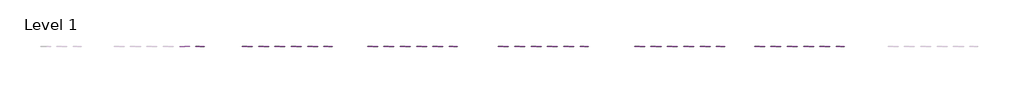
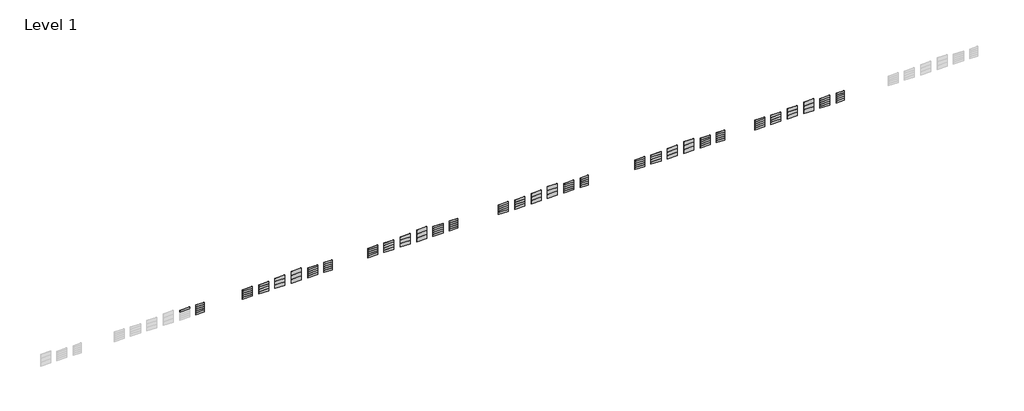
# One storey, part 3 of 7: 131 plates.
"""IFC4 building model written with IfcOpenShell, lengths in millimetres."""

from ifc_helpers import new_model, si_unit, origin, place, context, project, spatial, transform, mapped, element, save
from components import plate_eaecce36, s001_satin_white_20mm_25284a5f, plate_eb5be41b, s001_satin_white_12mm_60b0a342, s001_satin_white_12mm_af0daad2, s001_satin_white_12mm_b3103b5f, plate_547342df, s001_satin_white_12mm_c1b55f6d, s001_satin_white_12mm_d668b75a, s001_satin_white_12mm_d8c75ca1, s001_satin_white_12mm_670b1509, s001_satin_white_20mm_e5290f1d

model = new_model("IFC4")

# Units and contexts
model_context = context("Model", 3, world=origin())
ifc_project = project(units=[si_unit("LENGTHUNIT", "METRE", prefix="MILLI")], contexts=[model_context])

# Site, building, storey
site = spatial("IfcSite", under=ifc_project)
building = spatial("IfcBuilding", under=site)
storey = spatial("IfcBuildingStorey", under=building, Name="Level 1", Elevation=0.0)

# Plates
placement = place(None, origin())
plate_shape = plate_eaecce36(model_context)
element("IfcPlate", 1, ObjectType="Curtain-Panels_Outdoor-Material_HI-MACS_Solids : S006_Artic-White_20mm", at=placement, inside=storey, context=model_context, shape_type="MappedRepresentation", body=[
    mapped(plate_shape, transform((134315.8858072, 1061.3187116, 3040.0), x_axis=(1.0, 0.0, 0.0), y_axis=(0.0, 1.0, 0.0), z_axis=(0.0, 0.0, 1.0))),
])
s001_satin_white_20mm_shape = s001_satin_white_20mm_25284a5f(model_context)
element("IfcPlate", 2, ObjectType="Curtain-Panels_Outdoor-Material_HI-MACS_Solids : S006_Artic-White_20mm", at=placement, inside=storey, context=model_context, shape_type="MappedRepresentation", body=[
    mapped(s001_satin_white_20mm_shape, transform((139975.8858072, 1061.3187116, 0.0), x_axis=(1.0, 0.0, 0.0), y_axis=(0.0, 1.0, 0.0), z_axis=(0.0, 0.0, 1.0))),
])
element("IfcPlate", 3, ObjectType="Curtain-Panels_Outdoor-Material_HI-MACS_Solids : S006_Artic-White_20mm", at=placement, inside=storey, context=model_context, shape_type="MappedRepresentation", body=[
    mapped(s001_satin_white_20mm_shape, transform((139975.8858072, 1061.3187116, 760.0), x_axis=(1.0, 0.0, 0.0), y_axis=(0.0, 1.0, 0.0), z_axis=(0.0, 0.0, 1.0))),
])
element("IfcPlate", 4, ObjectType="Curtain-Panels_Outdoor-Material_HI-MACS_Solids : S006_Artic-White_20mm", at=placement, inside=storey, context=model_context, shape_type="MappedRepresentation", body=[
    mapped(s001_satin_white_20mm_shape, transform((139975.8858072, 1061.3187116, 1520.0), x_axis=(1.0, 0.0, 0.0), y_axis=(0.0, 1.0, 0.0), z_axis=(0.0, 0.0, 1.0))),
])
element("IfcPlate", 5, ObjectType="Curtain-Panels_Outdoor-Material_HI-MACS_Solids : S006_Artic-White_20mm", at=placement, inside=storey, context=model_context, shape_type="MappedRepresentation", body=[
    mapped(s001_satin_white_20mm_shape, transform((139975.8858072, 1061.3187116, 2280.0), x_axis=(1.0, 0.0, 0.0), y_axis=(0.0, 1.0, 0.0), z_axis=(0.0, 0.0, 1.0))),
])
plate_2_shape = plate_eb5be41b(model_context)
element("IfcPlate", 6, ObjectType="Curtain-Panels_Outdoor-Material_HI-MACS_Solids : S006_Artic-White_20mm", at=placement, inside=storey, context=model_context, shape_type="MappedRepresentation", body=[
    mapped(plate_2_shape, transform((139975.8858072, 1061.3187116, 3040.0), x_axis=(1.0, 0.0, 0.0), y_axis=(0.0, 1.0, 0.0), z_axis=(0.0, 0.0, 1.0))),
])
s001_satin_white_12mm_shape = s001_satin_white_12mm_60b0a342(model_context)
element("IfcPlate", 7, ObjectType="Curtain-Panels_Outdoor-Material_HI-MACS_Solids : S025_Fiery-Red_12mm", at=placement, inside=storey, context=model_context, shape_type="MappedRepresentation", body=[
    mapped(s001_satin_white_12mm_shape, transform((251315.8858072, 1061.3187116, 0.0), x_axis=(1.0, 0.0, 0.0), y_axis=(0.0, 1.0, 0.0), z_axis=(0.0, 0.0, 1.0))),
])
element("IfcPlate", 8, ObjectType="Curtain-Panels_Outdoor-Material_HI-MACS_Solids : S025_Fiery-Red_12mm", at=placement, inside=storey, context=model_context, shape_type="MappedRepresentation", body=[
    mapped(s001_satin_white_12mm_shape, transform((251315.8858072, 1061.3187116, 760.0), x_axis=(1.0, 0.0, 0.0), y_axis=(0.0, 1.0, 0.0), z_axis=(0.0, 0.0, 1.0))),
])
element("IfcPlate", 9, ObjectType="Curtain-Panels_Outdoor-Material_HI-MACS_Solids : S025_Fiery-Red_12mm", at=placement, inside=storey, context=model_context, shape_type="MappedRepresentation", body=[
    mapped(s001_satin_white_12mm_shape, transform((251315.8858072, 1061.3187116, 1520.0), x_axis=(1.0, 0.0, 0.0), y_axis=(0.0, 1.0, 0.0), z_axis=(0.0, 0.0, 1.0))),
])
element("IfcPlate", 10, ObjectType="Curtain-Panels_Outdoor-Material_HI-MACS_Solids : S025_Fiery-Red_12mm", at=placement, inside=storey, context=model_context, shape_type="MappedRepresentation", body=[
    mapped(s001_satin_white_12mm_shape, transform((251315.8858072, 1061.3187116, 2280.0), x_axis=(1.0, 0.0, 0.0), y_axis=(0.0, 1.0, 0.0), z_axis=(0.0, 0.0, 1.0))),
])
s001_satin_white_12mm_2_shape = s001_satin_white_12mm_af0daad2(model_context)
element("IfcPlate", 11, ObjectType="Curtain-Panels_Outdoor-Material_HI-MACS_Solids : S025_Fiery-Red_12mm", at=placement, inside=storey, context=model_context, shape_type="MappedRepresentation", body=[
    mapped(s001_satin_white_12mm_2_shape, transform((251315.8858072, 1061.3187116, 3040.0), x_axis=(1.0, 0.0, 0.0), y_axis=(0.0, 1.0, 0.0), z_axis=(0.0, 0.0, 1.0))),
])
s001_satin_white_12mm_3_shape = s001_satin_white_12mm_b3103b5f(model_context)
element("IfcPlate", 12, ObjectType="Curtain-Panels_Outdoor-Material_HI-MACS_Solids : S025_Fiery-Red_12mm", at=placement, inside=storey, context=model_context, shape_type="MappedRepresentation", body=[
    mapped(s001_satin_white_12mm_3_shape, transform((257315.8858072, 1061.3187116, 0.0), x_axis=(1.0, 0.0, 0.0), y_axis=(0.0, 1.0, 0.0), z_axis=(0.0, 0.0, 1.0))),
])
element("IfcPlate", 13, ObjectType="Curtain-Panels_Outdoor-Material_HI-MACS_Solids : S025_Fiery-Red_12mm", at=placement, inside=storey, context=model_context, shape_type="MappedRepresentation", body=[
    mapped(s001_satin_white_12mm_3_shape, transform((257315.8858072, 1061.3187116, 910.0), x_axis=(1.0, 0.0, 0.0), y_axis=(0.0, 1.0, 0.0), z_axis=(0.0, 0.0, 1.0))),
])
element("IfcPlate", 14, ObjectType="Curtain-Panels_Outdoor-Material_HI-MACS_Solids : S025_Fiery-Red_12mm", at=placement, inside=storey, context=model_context, shape_type="MappedRepresentation", body=[
    mapped(s001_satin_white_12mm_3_shape, transform((257315.8858072, 1061.3187116, 1820.0), x_axis=(1.0, 0.0, 0.0), y_axis=(0.0, 1.0, 0.0), z_axis=(0.0, 0.0, 1.0))),
])
plate_3_shape = plate_547342df(model_context)
element("IfcPlate", 15, ObjectType="Curtain-Panels_Outdoor-Material_HI-MACS_Solids : S025_Fiery-Red_12mm", at=placement, inside=storey, context=model_context, shape_type="MappedRepresentation", body=[
    mapped(plate_3_shape, transform((257315.8858072, 1061.3187116, 2730.0), x_axis=(1.0, 0.0, 0.0), y_axis=(0.0, 1.0, 0.0), z_axis=(0.0, 0.0, 1.0))),
])
s001_satin_white_12mm_4_shape = s001_satin_white_12mm_c1b55f6d(model_context)
element("IfcPlate", 16, ObjectType="Curtain-Panels_Outdoor-Material_HI-MACS_Solids : S025_Fiery-Red_12mm", at=placement, inside=storey, context=model_context, shape_type="MappedRepresentation", body=[
    mapped(s001_satin_white_12mm_4_shape, transform((263315.8858072, 1061.3187116, 0.0), x_axis=(1.0, 0.0, 0.0), y_axis=(0.0, 1.0, 0.0), z_axis=(0.0, 0.0, 1.0))),
])
element("IfcPlate", 17, ObjectType="Curtain-Panels_Outdoor-Material_HI-MACS_Solids : S025_Fiery-Red_12mm", at=placement, inside=storey, context=model_context, shape_type="MappedRepresentation", body=[
    mapped(s001_satin_white_12mm_4_shape, transform((263315.8858072, 1061.3187116, 1350.0), x_axis=(1.0, 0.0, 0.0), y_axis=(0.0, 1.0, 0.0), z_axis=(0.0, 0.0, 1.0))),
])
s001_satin_white_12mm_5_shape = s001_satin_white_12mm_d668b75a(model_context)
element("IfcPlate", 18, ObjectType="Curtain-Panels_Outdoor-Material_HI-MACS_Solids : S025_Fiery-Red_12mm", at=placement, inside=storey, context=model_context, shape_type="MappedRepresentation", body=[
    mapped(s001_satin_white_12mm_5_shape, transform((263315.8858072, 1061.3187116, 2700.0), x_axis=(1.0, 0.0, 0.0), y_axis=(0.0, 1.0, 0.0), z_axis=(0.0, 0.0, 1.0))),
])
s001_satin_white_12mm_6_shape = s001_satin_white_12mm_d8c75ca1(model_context)
element("IfcPlate", 19, ObjectType="Curtain-Panels_Outdoor-Material_HI-MACS_Solids : S025_Fiery-Red_12mm", at=placement, inside=storey, context=model_context, shape_type="MappedRepresentation", body=[
    mapped(s001_satin_white_12mm_6_shape, transform((269315.8858072, 1061.3187116, 0.0), x_axis=(1.0, 0.0, 0.0), y_axis=(0.0, 1.0, 0.0), z_axis=(0.0, 0.0, 1.0))),
])
element("IfcPlate", 20, ObjectType="Curtain-Panels_Outdoor-Material_HI-MACS_Solids : S025_Fiery-Red_12mm", at=placement, inside=storey, context=model_context, shape_type="MappedRepresentation", body=[
    mapped(s001_satin_white_12mm_6_shape, transform((269315.8858072, 1061.3187116, 1520.0), x_axis=(1.0, 0.0, 0.0), y_axis=(0.0, 1.0, 0.0), z_axis=(0.0, 0.0, 1.0))),
])
s001_satin_white_12mm_7_shape = s001_satin_white_12mm_670b1509(model_context)
element("IfcPlate", 21, ObjectType="Curtain-Panels_Outdoor-Material_HI-MACS_Solids : S025_Fiery-Red_12mm", at=placement, inside=storey, context=model_context, shape_type="MappedRepresentation", body=[
    mapped(s001_satin_white_12mm_7_shape, transform((269315.8858072, 1061.3187116, 3040.0), x_axis=(1.0, 0.0, 0.0), y_axis=(0.0, 1.0, 0.0), z_axis=(0.0, 0.0, 1.0))),
])
s001_satin_white_20mm_2_shape = s001_satin_white_20mm_e5290f1d(model_context)
element("IfcPlate", 22, ObjectType="Curtain-Panels_Outdoor-Material_HI-MACS_Solids : S025_Fiery-Red_20mm", at=placement, inside=storey, context=model_context, shape_type="MappedRepresentation", body=[
    mapped(s001_satin_white_20mm_2_shape, transform((275315.8858072, 1061.3187116, 0.0), x_axis=(1.0, 0.0, 0.0), y_axis=(0.0, 1.0, 0.0), z_axis=(0.0, 0.0, 1.0))),
])
element("IfcPlate", 23, ObjectType="Curtain-Panels_Outdoor-Material_HI-MACS_Solids : S025_Fiery-Red_20mm", at=placement, inside=storey, context=model_context, shape_type="MappedRepresentation", body=[
    mapped(s001_satin_white_20mm_2_shape, transform((275315.8858072, 1061.3187116, 760.0), x_axis=(1.0, 0.0, 0.0), y_axis=(0.0, 1.0, 0.0), z_axis=(0.0, 0.0, 1.0))),
])
element("IfcPlate", 24, ObjectType="Curtain-Panels_Outdoor-Material_HI-MACS_Solids : S025_Fiery-Red_20mm", at=placement, inside=storey, context=model_context, shape_type="MappedRepresentation", body=[
    mapped(s001_satin_white_20mm_2_shape, transform((275315.8858072, 1061.3187116, 1520.0), x_axis=(1.0, 0.0, 0.0), y_axis=(0.0, 1.0, 0.0), z_axis=(0.0, 0.0, 1.0))),
])
element("IfcPlate", 25, ObjectType="Curtain-Panels_Outdoor-Material_HI-MACS_Solids : S025_Fiery-Red_20mm", at=placement, inside=storey, context=model_context, shape_type="MappedRepresentation", body=[
    mapped(s001_satin_white_20mm_2_shape, transform((275315.8858072, 1061.3187116, 2280.0), x_axis=(1.0, 0.0, 0.0), y_axis=(0.0, 1.0, 0.0), z_axis=(0.0, 0.0, 1.0))),
])
element("IfcPlate", 26, ObjectType="Curtain-Panels_Outdoor-Material_HI-MACS_Solids : S025_Fiery-Red_20mm", at=placement, inside=storey, context=model_context, shape_type="MappedRepresentation", body=[
    mapped(plate_shape, transform((275315.8858072, 1061.3187116, 3040.0), x_axis=(1.0, 0.0, 0.0), y_axis=(0.0, 1.0, 0.0), z_axis=(0.0, 0.0, 1.0))),
])
element("IfcPlate", 27, ObjectType="Curtain-Panels_Outdoor-Material_HI-MACS_Solids : S025_Fiery-Red_20mm", at=placement, inside=storey, context=model_context, shape_type="MappedRepresentation", body=[
    mapped(s001_satin_white_20mm_shape, transform((280975.8858072, 1061.3187116, 0.0), x_axis=(1.0, 0.0, 0.0), y_axis=(0.0, 1.0, 0.0), z_axis=(0.0, 0.0, 1.0))),
])
element("IfcPlate", 28, ObjectType="Curtain-Panels_Outdoor-Material_HI-MACS_Solids : S025_Fiery-Red_20mm", at=placement, inside=storey, context=model_context, shape_type="MappedRepresentation", body=[
    mapped(s001_satin_white_20mm_shape, transform((280975.8858072, 1061.3187116, 760.0), x_axis=(1.0, 0.0, 0.0), y_axis=(0.0, 1.0, 0.0), z_axis=(0.0, 0.0, 1.0))),
])
element("IfcPlate", 29, ObjectType="Curtain-Panels_Outdoor-Material_HI-MACS_Solids : S025_Fiery-Red_20mm", at=placement, inside=storey, context=model_context, shape_type="MappedRepresentation", body=[
    mapped(s001_satin_white_20mm_shape, transform((280975.8858072, 1061.3187116, 1520.0), x_axis=(1.0, 0.0, 0.0), y_axis=(0.0, 1.0, 0.0), z_axis=(0.0, 0.0, 1.0))),
])
element("IfcPlate", 30, ObjectType="Curtain-Panels_Outdoor-Material_HI-MACS_Solids : S025_Fiery-Red_20mm", at=placement, inside=storey, context=model_context, shape_type="MappedRepresentation", body=[
    mapped(s001_satin_white_20mm_shape, transform((280975.8858072, 1061.3187116, 2280.0), x_axis=(1.0, 0.0, 0.0), y_axis=(0.0, 1.0, 0.0), z_axis=(0.0, 0.0, 1.0))),
])
element("IfcPlate", 31, ObjectType="Curtain-Panels_Outdoor-Material_HI-MACS_Solids : S025_Fiery-Red_20mm", at=placement, inside=storey, context=model_context, shape_type="MappedRepresentation", body=[
    mapped(plate_2_shape, transform((280975.8858072, 1061.3187116, 3040.0), x_axis=(1.0, 0.0, 0.0), y_axis=(0.0, 1.0, 0.0), z_axis=(0.0, 0.0, 1.0))),
])
element("IfcPlate", 32, ObjectType="Curtain-Panels_Outdoor-Material_HI-MACS_Solids : S009_Cream_12mm", at=placement, inside=storey, context=model_context, shape_type="MappedRepresentation", body=[
    mapped(s001_satin_white_12mm_shape, transform((157315.8858072, 1061.3187116, 0.0), x_axis=(1.0, 0.0, 0.0), y_axis=(0.0, 1.0, 0.0), z_axis=(0.0, 0.0, 1.0))),
])
element("IfcPlate", 33, ObjectType="Curtain-Panels_Outdoor-Material_HI-MACS_Solids : S009_Cream_12mm", at=placement, inside=storey, context=model_context, shape_type="MappedRepresentation", body=[
    mapped(s001_satin_white_12mm_shape, transform((157315.8858072, 1061.3187116, 760.0), x_axis=(1.0, 0.0, 0.0), y_axis=(0.0, 1.0, 0.0), z_axis=(0.0, 0.0, 1.0))),
])
element("IfcPlate", 34, ObjectType="Curtain-Panels_Outdoor-Material_HI-MACS_Solids : S009_Cream_12mm", at=placement, inside=storey, context=model_context, shape_type="MappedRepresentation", body=[
    mapped(s001_satin_white_12mm_shape, transform((157315.8858072, 1061.3187116, 1520.0), x_axis=(1.0, 0.0, 0.0), y_axis=(0.0, 1.0, 0.0), z_axis=(0.0, 0.0, 1.0))),
])
element("IfcPlate", 35, ObjectType="Curtain-Panels_Outdoor-Material_HI-MACS_Solids : S009_Cream_12mm", at=placement, inside=storey, context=model_context, shape_type="MappedRepresentation", body=[
    mapped(s001_satin_white_12mm_shape, transform((157315.8858072, 1061.3187116, 2280.0), x_axis=(1.0, 0.0, 0.0), y_axis=(0.0, 1.0, 0.0), z_axis=(0.0, 0.0, 1.0))),
])
element("IfcPlate", 36, ObjectType="Curtain-Panels_Outdoor-Material_HI-MACS_Solids : S009_Cream_12mm", at=placement, inside=storey, context=model_context, shape_type="MappedRepresentation", body=[
    mapped(s001_satin_white_12mm_2_shape, transform((157315.8858072, 1061.3187116, 3040.0), x_axis=(1.0, 0.0, 0.0), y_axis=(0.0, 1.0, 0.0), z_axis=(0.0, 0.0, 1.0))),
])
element("IfcPlate", 37, ObjectType="Curtain-Panels_Outdoor-Material_HI-MACS_Solids : S009_Cream_12mm", at=placement, inside=storey, context=model_context, shape_type="MappedRepresentation", body=[
    mapped(s001_satin_white_12mm_3_shape, transform((163315.8858072, 1061.3187116, 0.0), x_axis=(1.0, 0.0, 0.0), y_axis=(0.0, 1.0, 0.0), z_axis=(0.0, 0.0, 1.0))),
])
element("IfcPlate", 38, ObjectType="Curtain-Panels_Outdoor-Material_HI-MACS_Solids : S009_Cream_12mm", at=placement, inside=storey, context=model_context, shape_type="MappedRepresentation", body=[
    mapped(s001_satin_white_12mm_3_shape, transform((163315.8858072, 1061.3187116, 910.0), x_axis=(1.0, 0.0, 0.0), y_axis=(0.0, 1.0, 0.0), z_axis=(0.0, 0.0, 1.0))),
])
element("IfcPlate", 39, ObjectType="Curtain-Panels_Outdoor-Material_HI-MACS_Solids : S009_Cream_12mm", at=placement, inside=storey, context=model_context, shape_type="MappedRepresentation", body=[
    mapped(s001_satin_white_12mm_3_shape, transform((163315.8858072, 1061.3187116, 1820.0), x_axis=(1.0, 0.0, 0.0), y_axis=(0.0, 1.0, 0.0), z_axis=(0.0, 0.0, 1.0))),
])
element("IfcPlate", 40, ObjectType="Curtain-Panels_Outdoor-Material_HI-MACS_Solids : S009_Cream_12mm", at=placement, inside=storey, context=model_context, shape_type="MappedRepresentation", body=[
    mapped(plate_3_shape, transform((163315.8858072, 1061.3187116, 2730.0), x_axis=(1.0, 0.0, 0.0), y_axis=(0.0, 1.0, 0.0), z_axis=(0.0, 0.0, 1.0))),
])
element("IfcPlate", 41, ObjectType="Curtain-Panels_Outdoor-Material_HI-MACS_Solids : S009_Cream_12mm", at=placement, inside=storey, context=model_context, shape_type="MappedRepresentation", body=[
    mapped(s001_satin_white_12mm_4_shape, transform((169315.8858072, 1061.3187116, 0.0), x_axis=(1.0, 0.0, 0.0), y_axis=(0.0, 1.0, 0.0), z_axis=(0.0, 0.0, 1.0))),
])
element("IfcPlate", 42, ObjectType="Curtain-Panels_Outdoor-Material_HI-MACS_Solids : S009_Cream_12mm", at=placement, inside=storey, context=model_context, shape_type="MappedRepresentation", body=[
    mapped(s001_satin_white_12mm_4_shape, transform((169315.8858072, 1061.3187116, 1350.0), x_axis=(1.0, 0.0, 0.0), y_axis=(0.0, 1.0, 0.0), z_axis=(0.0, 0.0, 1.0))),
])
element("IfcPlate", 43, ObjectType="Curtain-Panels_Outdoor-Material_HI-MACS_Solids : S009_Cream_12mm", at=placement, inside=storey, context=model_context, shape_type="MappedRepresentation", body=[
    mapped(s001_satin_white_12mm_5_shape, transform((169315.8858072, 1061.3187116, 2700.0), x_axis=(1.0, 0.0, 0.0), y_axis=(0.0, 1.0, 0.0), z_axis=(0.0, 0.0, 1.0))),
])
element("IfcPlate", 44, ObjectType="Curtain-Panels_Outdoor-Material_HI-MACS_Solids : S009_Cream_12mm", at=placement, inside=storey, context=model_context, shape_type="MappedRepresentation", body=[
    mapped(s001_satin_white_12mm_6_shape, transform((175315.8858072, 1061.3187116, 0.0), x_axis=(1.0, 0.0, 0.0), y_axis=(0.0, 1.0, 0.0), z_axis=(0.0, 0.0, 1.0))),
])
element("IfcPlate", 45, ObjectType="Curtain-Panels_Outdoor-Material_HI-MACS_Solids : S009_Cream_12mm", at=placement, inside=storey, context=model_context, shape_type="MappedRepresentation", body=[
    mapped(s001_satin_white_12mm_6_shape, transform((175315.8858072, 1061.3187116, 1520.0), x_axis=(1.0, 0.0, 0.0), y_axis=(0.0, 1.0, 0.0), z_axis=(0.0, 0.0, 1.0))),
])
element("IfcPlate", 46, ObjectType="Curtain-Panels_Outdoor-Material_HI-MACS_Solids : S009_Cream_12mm", at=placement, inside=storey, context=model_context, shape_type="MappedRepresentation", body=[
    mapped(s001_satin_white_12mm_7_shape, transform((175315.8858072, 1061.3187116, 3040.0), x_axis=(1.0, 0.0, 0.0), y_axis=(0.0, 1.0, 0.0), z_axis=(0.0, 0.0, 1.0))),
])
element("IfcPlate", 47, ObjectType="Curtain-Panels_Outdoor-Material_HI-MACS_Solids : S009_Cream_20mm", at=placement, inside=storey, context=model_context, shape_type="MappedRepresentation", body=[
    mapped(s001_satin_white_20mm_2_shape, transform((181315.8858072, 1061.3187116, 0.0), x_axis=(1.0, 0.0, 0.0), y_axis=(0.0, 1.0, 0.0), z_axis=(0.0, 0.0, 1.0))),
])
element("IfcPlate", 48, ObjectType="Curtain-Panels_Outdoor-Material_HI-MACS_Solids : S009_Cream_20mm", at=placement, inside=storey, context=model_context, shape_type="MappedRepresentation", body=[
    mapped(s001_satin_white_20mm_2_shape, transform((181315.8858072, 1061.3187116, 760.0), x_axis=(1.0, 0.0, 0.0), y_axis=(0.0, 1.0, 0.0), z_axis=(0.0, 0.0, 1.0))),
])
element("IfcPlate", 49, ObjectType="Curtain-Panels_Outdoor-Material_HI-MACS_Solids : S009_Cream_20mm", at=placement, inside=storey, context=model_context, shape_type="MappedRepresentation", body=[
    mapped(s001_satin_white_20mm_2_shape, transform((181315.8858072, 1061.3187116, 1520.0), x_axis=(1.0, 0.0, 0.0), y_axis=(0.0, 1.0, 0.0), z_axis=(0.0, 0.0, 1.0))),
])
element("IfcPlate", 50, ObjectType="Curtain-Panels_Outdoor-Material_HI-MACS_Solids : S009_Cream_20mm", at=placement, inside=storey, context=model_context, shape_type="MappedRepresentation", body=[
    mapped(s001_satin_white_20mm_2_shape, transform((181315.8858072, 1061.3187116, 2280.0), x_axis=(1.0, 0.0, 0.0), y_axis=(0.0, 1.0, 0.0), z_axis=(0.0, 0.0, 1.0))),
])
element("IfcPlate", 51, ObjectType="Curtain-Panels_Outdoor-Material_HI-MACS_Solids : S009_Cream_20mm", at=placement, inside=storey, context=model_context, shape_type="MappedRepresentation", body=[
    mapped(plate_shape, transform((181315.8858072, 1061.3187116, 3040.0), x_axis=(1.0, 0.0, 0.0), y_axis=(0.0, 1.0, 0.0), z_axis=(0.0, 0.0, 1.0))),
])
element("IfcPlate", 52, ObjectType="Curtain-Panels_Outdoor-Material_HI-MACS_Solids : S009_Cream_20mm", at=placement, inside=storey, context=model_context, shape_type="MappedRepresentation", body=[
    mapped(s001_satin_white_20mm_shape, transform((186975.8858072, 1061.3187116, 0.0), x_axis=(1.0, 0.0, 0.0), y_axis=(0.0, 1.0, 0.0), z_axis=(0.0, 0.0, 1.0))),
])
element("IfcPlate", 53, ObjectType="Curtain-Panels_Outdoor-Material_HI-MACS_Solids : S009_Cream_20mm", at=placement, inside=storey, context=model_context, shape_type="MappedRepresentation", body=[
    mapped(s001_satin_white_20mm_shape, transform((186975.8858072, 1061.3187116, 760.0), x_axis=(1.0, 0.0, 0.0), y_axis=(0.0, 1.0, 0.0), z_axis=(0.0, 0.0, 1.0))),
])
element("IfcPlate", 54, ObjectType="Curtain-Panels_Outdoor-Material_HI-MACS_Solids : S009_Cream_20mm", at=placement, inside=storey, context=model_context, shape_type="MappedRepresentation", body=[
    mapped(s001_satin_white_20mm_shape, transform((186975.8858072, 1061.3187116, 1520.0), x_axis=(1.0, 0.0, 0.0), y_axis=(0.0, 1.0, 0.0), z_axis=(0.0, 0.0, 1.0))),
])
element("IfcPlate", 55, ObjectType="Curtain-Panels_Outdoor-Material_HI-MACS_Solids : S009_Cream_20mm", at=placement, inside=storey, context=model_context, shape_type="MappedRepresentation", body=[
    mapped(s001_satin_white_20mm_shape, transform((186975.8858072, 1061.3187116, 2280.0), x_axis=(1.0, 0.0, 0.0), y_axis=(0.0, 1.0, 0.0), z_axis=(0.0, 0.0, 1.0))),
])
element("IfcPlate", 56, ObjectType="Curtain-Panels_Outdoor-Material_HI-MACS_Solids : S009_Cream_20mm", at=placement, inside=storey, context=model_context, shape_type="MappedRepresentation", body=[
    mapped(plate_2_shape, transform((186975.8858072, 1061.3187116, 3040.0), x_axis=(1.0, 0.0, 0.0), y_axis=(0.0, 1.0, 0.0), z_axis=(0.0, 0.0, 1.0))),
])
element("IfcPlate", 57, ObjectType="Curtain-Panels_Outdoor-Material_HI-MACS_Solids : S022_Black_12mm", at=placement, inside=storey, context=model_context, shape_type="MappedRepresentation", body=[
    mapped(s001_satin_white_12mm_shape, transform((203315.8858072, 1061.3187116, 0.0), x_axis=(1.0, 0.0, 0.0), y_axis=(0.0, 1.0, 0.0), z_axis=(0.0, 0.0, 1.0))),
])
element("IfcPlate", 58, ObjectType="Curtain-Panels_Outdoor-Material_HI-MACS_Solids : S022_Black_12mm", at=placement, inside=storey, context=model_context, shape_type="MappedRepresentation", body=[
    mapped(s001_satin_white_12mm_shape, transform((203315.8858072, 1061.3187116, 760.0), x_axis=(1.0, 0.0, 0.0), y_axis=(0.0, 1.0, 0.0), z_axis=(0.0, 0.0, 1.0))),
])
element("IfcPlate", 59, ObjectType="Curtain-Panels_Outdoor-Material_HI-MACS_Solids : S022_Black_12mm", at=placement, inside=storey, context=model_context, shape_type="MappedRepresentation", body=[
    mapped(s001_satin_white_12mm_shape, transform((203315.8858072, 1061.3187116, 1520.0), x_axis=(1.0, 0.0, 0.0), y_axis=(0.0, 1.0, 0.0), z_axis=(0.0, 0.0, 1.0))),
])
element("IfcPlate", 60, ObjectType="Curtain-Panels_Outdoor-Material_HI-MACS_Solids : S022_Black_12mm", at=placement, inside=storey, context=model_context, shape_type="MappedRepresentation", body=[
    mapped(s001_satin_white_12mm_shape, transform((203315.8858072, 1061.3187116, 2280.0), x_axis=(1.0, 0.0, 0.0), y_axis=(0.0, 1.0, 0.0), z_axis=(0.0, 0.0, 1.0))),
])
element("IfcPlate", 61, ObjectType="Curtain-Panels_Outdoor-Material_HI-MACS_Solids : S022_Black_12mm", at=placement, inside=storey, context=model_context, shape_type="MappedRepresentation", body=[
    mapped(s001_satin_white_12mm_2_shape, transform((203315.8858072, 1061.3187116, 3040.0), x_axis=(1.0, 0.0, 0.0), y_axis=(0.0, 1.0, 0.0), z_axis=(0.0, 0.0, 1.0))),
])
element("IfcPlate", 62, ObjectType="Curtain-Panels_Outdoor-Material_HI-MACS_Solids : S022_Black_12mm", at=placement, inside=storey, context=model_context, shape_type="MappedRepresentation", body=[
    mapped(s001_satin_white_12mm_3_shape, transform((209315.8858072, 1061.3187116, 0.0), x_axis=(1.0, 0.0, 0.0), y_axis=(0.0, 1.0, 0.0), z_axis=(0.0, 0.0, 1.0))),
])
element("IfcPlate", 63, ObjectType="Curtain-Panels_Outdoor-Material_HI-MACS_Solids : S022_Black_12mm", at=placement, inside=storey, context=model_context, shape_type="MappedRepresentation", body=[
    mapped(s001_satin_white_12mm_3_shape, transform((209315.8858072, 1061.3187116, 910.0), x_axis=(1.0, 0.0, 0.0), y_axis=(0.0, 1.0, 0.0), z_axis=(0.0, 0.0, 1.0))),
])
element("IfcPlate", 64, ObjectType="Curtain-Panels_Outdoor-Material_HI-MACS_Solids : S022_Black_12mm", at=placement, inside=storey, context=model_context, shape_type="MappedRepresentation", body=[
    mapped(s001_satin_white_12mm_3_shape, transform((209315.8858072, 1061.3187116, 1820.0), x_axis=(1.0, 0.0, 0.0), y_axis=(0.0, 1.0, 0.0), z_axis=(0.0, 0.0, 1.0))),
])
element("IfcPlate", 65, ObjectType="Curtain-Panels_Outdoor-Material_HI-MACS_Solids : S022_Black_12mm", at=placement, inside=storey, context=model_context, shape_type="MappedRepresentation", body=[
    mapped(plate_3_shape, transform((209315.8858072, 1061.3187116, 2730.0), x_axis=(1.0, 0.0, 0.0), y_axis=(0.0, 1.0, 0.0), z_axis=(0.0, 0.0, 1.0))),
])
element("IfcPlate", 66, ObjectType="Curtain-Panels_Outdoor-Material_HI-MACS_Solids : S022_Black_12mm", at=placement, inside=storey, context=model_context, shape_type="MappedRepresentation", body=[
    mapped(s001_satin_white_12mm_4_shape, transform((215315.8858072, 1061.3187116, 0.0), x_axis=(1.0, 0.0, 0.0), y_axis=(0.0, 1.0, 0.0), z_axis=(0.0, 0.0, 1.0))),
])
element("IfcPlate", 67, ObjectType="Curtain-Panels_Outdoor-Material_HI-MACS_Solids : S022_Black_12mm", at=placement, inside=storey, context=model_context, shape_type="MappedRepresentation", body=[
    mapped(s001_satin_white_12mm_4_shape, transform((215315.8858072, 1061.3187116, 1350.0), x_axis=(1.0, 0.0, 0.0), y_axis=(0.0, 1.0, 0.0), z_axis=(0.0, 0.0, 1.0))),
])
element("IfcPlate", 68, ObjectType="Curtain-Panels_Outdoor-Material_HI-MACS_Solids : S022_Black_12mm", at=placement, inside=storey, context=model_context, shape_type="MappedRepresentation", body=[
    mapped(s001_satin_white_12mm_5_shape, transform((215315.8858072, 1061.3187116, 2700.0), x_axis=(1.0, 0.0, 0.0), y_axis=(0.0, 1.0, 0.0), z_axis=(0.0, 0.0, 1.0))),
])
element("IfcPlate", 69, ObjectType="Curtain-Panels_Outdoor-Material_HI-MACS_Solids : S022_Black_12mm", at=placement, inside=storey, context=model_context, shape_type="MappedRepresentation", body=[
    mapped(s001_satin_white_12mm_6_shape, transform((221315.8858072, 1061.3187116, 0.0), x_axis=(1.0, 0.0, 0.0), y_axis=(0.0, 1.0, 0.0), z_axis=(0.0, 0.0, 1.0))),
])
element("IfcPlate", 70, ObjectType="Curtain-Panels_Outdoor-Material_HI-MACS_Solids : S022_Black_12mm", at=placement, inside=storey, context=model_context, shape_type="MappedRepresentation", body=[
    mapped(s001_satin_white_12mm_6_shape, transform((221315.8858072, 1061.3187116, 1520.0), x_axis=(1.0, 0.0, 0.0), y_axis=(0.0, 1.0, 0.0), z_axis=(0.0, 0.0, 1.0))),
])
element("IfcPlate", 71, ObjectType="Curtain-Panels_Outdoor-Material_HI-MACS_Solids : S022_Black_12mm", at=placement, inside=storey, context=model_context, shape_type="MappedRepresentation", body=[
    mapped(s001_satin_white_12mm_7_shape, transform((221315.8858072, 1061.3187116, 3040.0), x_axis=(1.0, 0.0, 0.0), y_axis=(0.0, 1.0, 0.0), z_axis=(0.0, 0.0, 1.0))),
])
element("IfcPlate", 72, ObjectType="Curtain-Panels_Outdoor-Material_HI-MACS_Solids : S022_Black_20mm", at=placement, inside=storey, context=model_context, shape_type="MappedRepresentation", body=[
    mapped(s001_satin_white_20mm_2_shape, transform((227315.8858072, 1061.3187116, 0.0), x_axis=(1.0, 0.0, 0.0), y_axis=(0.0, 1.0, 0.0), z_axis=(0.0, 0.0, 1.0))),
])
element("IfcPlate", 73, ObjectType="Curtain-Panels_Outdoor-Material_HI-MACS_Solids : S022_Black_20mm", at=placement, inside=storey, context=model_context, shape_type="MappedRepresentation", body=[
    mapped(s001_satin_white_20mm_2_shape, transform((227315.8858072, 1061.3187116, 760.0), x_axis=(1.0, 0.0, 0.0), y_axis=(0.0, 1.0, 0.0), z_axis=(0.0, 0.0, 1.0))),
])
element("IfcPlate", 74, ObjectType="Curtain-Panels_Outdoor-Material_HI-MACS_Solids : S022_Black_20mm", at=placement, inside=storey, context=model_context, shape_type="MappedRepresentation", body=[
    mapped(s001_satin_white_20mm_2_shape, transform((227315.8858072, 1061.3187116, 1520.0), x_axis=(1.0, 0.0, 0.0), y_axis=(0.0, 1.0, 0.0), z_axis=(0.0, 0.0, 1.0))),
])
element("IfcPlate", 75, ObjectType="Curtain-Panels_Outdoor-Material_HI-MACS_Solids : S022_Black_20mm", at=placement, inside=storey, context=model_context, shape_type="MappedRepresentation", body=[
    mapped(s001_satin_white_20mm_2_shape, transform((227315.8858072, 1061.3187116, 2280.0), x_axis=(1.0, 0.0, 0.0), y_axis=(0.0, 1.0, 0.0), z_axis=(0.0, 0.0, 1.0))),
])
element("IfcPlate", 76, ObjectType="Curtain-Panels_Outdoor-Material_HI-MACS_Solids : S022_Black_20mm", at=placement, inside=storey, context=model_context, shape_type="MappedRepresentation", body=[
    mapped(plate_shape, transform((227315.8858072, 1061.3187116, 3040.0), x_axis=(1.0, 0.0, 0.0), y_axis=(0.0, 1.0, 0.0), z_axis=(0.0, 0.0, 1.0))),
])
element("IfcPlate", 77, ObjectType="Curtain-Panels_Outdoor-Material_HI-MACS_Solids : S022_Black_20mm", at=placement, inside=storey, context=model_context, shape_type="MappedRepresentation", body=[
    mapped(s001_satin_white_20mm_shape, transform((232975.8858072, 1061.3187116, 0.0), x_axis=(1.0, 0.0, 0.0), y_axis=(0.0, 1.0, 0.0), z_axis=(0.0, 0.0, 1.0))),
])
element("IfcPlate", 78, ObjectType="Curtain-Panels_Outdoor-Material_HI-MACS_Solids : S022_Black_20mm", at=placement, inside=storey, context=model_context, shape_type="MappedRepresentation", body=[
    mapped(s001_satin_white_20mm_shape, transform((232975.8858072, 1061.3187116, 760.0), x_axis=(1.0, 0.0, 0.0), y_axis=(0.0, 1.0, 0.0), z_axis=(0.0, 0.0, 1.0))),
])
element("IfcPlate", 79, ObjectType="Curtain-Panels_Outdoor-Material_HI-MACS_Solids : S022_Black_20mm", at=placement, inside=storey, context=model_context, shape_type="MappedRepresentation", body=[
    mapped(s001_satin_white_20mm_shape, transform((232975.8858072, 1061.3187116, 1520.0), x_axis=(1.0, 0.0, 0.0), y_axis=(0.0, 1.0, 0.0), z_axis=(0.0, 0.0, 1.0))),
])
element("IfcPlate", 80, ObjectType="Curtain-Panels_Outdoor-Material_HI-MACS_Solids : S022_Black_20mm", at=placement, inside=storey, context=model_context, shape_type="MappedRepresentation", body=[
    mapped(s001_satin_white_20mm_shape, transform((232975.8858072, 1061.3187116, 2280.0), x_axis=(1.0, 0.0, 0.0), y_axis=(0.0, 1.0, 0.0), z_axis=(0.0, 0.0, 1.0))),
])
element("IfcPlate", 81, ObjectType="Curtain-Panels_Outdoor-Material_HI-MACS_Solids : S022_Black_20mm", at=placement, inside=storey, context=model_context, shape_type="MappedRepresentation", body=[
    mapped(plate_2_shape, transform((232975.8858072, 1061.3187116, 3040.0), x_axis=(1.0, 0.0, 0.0), y_axis=(0.0, 1.0, 0.0), z_axis=(0.0, 0.0, 1.0))),
])
element("IfcPlate", 82, ObjectType="Curtain-Panels_Outdoor-Material_HI-MACS_Solids : S026_Banana_12mm", at=placement, inside=storey, context=model_context, shape_type="MappedRepresentation", body=[
    mapped(s001_satin_white_12mm_shape, transform((301315.8858072, 1061.3187116, 0.0), x_axis=(1.0, 0.0, 0.0), y_axis=(0.0, 1.0, 0.0), z_axis=(0.0, 0.0, 1.0))),
])
element("IfcPlate", 83, ObjectType="Curtain-Panels_Outdoor-Material_HI-MACS_Solids : S026_Banana_12mm", at=placement, inside=storey, context=model_context, shape_type="MappedRepresentation", body=[
    mapped(s001_satin_white_12mm_shape, transform((301315.8858072, 1061.3187116, 760.0), x_axis=(1.0, 0.0, 0.0), y_axis=(0.0, 1.0, 0.0), z_axis=(0.0, 0.0, 1.0))),
])
element("IfcPlate", 84, ObjectType="Curtain-Panels_Outdoor-Material_HI-MACS_Solids : S026_Banana_12mm", at=placement, inside=storey, context=model_context, shape_type="MappedRepresentation", body=[
    mapped(s001_satin_white_12mm_shape, transform((301315.8858072, 1061.3187116, 1520.0), x_axis=(1.0, 0.0, 0.0), y_axis=(0.0, 1.0, 0.0), z_axis=(0.0, 0.0, 1.0))),
])
element("IfcPlate", 85, ObjectType="Curtain-Panels_Outdoor-Material_HI-MACS_Solids : S026_Banana_12mm", at=placement, inside=storey, context=model_context, shape_type="MappedRepresentation", body=[
    mapped(s001_satin_white_12mm_shape, transform((301315.8858072, 1061.3187116, 2280.0), x_axis=(1.0, 0.0, 0.0), y_axis=(0.0, 1.0, 0.0), z_axis=(0.0, 0.0, 1.0))),
])
element("IfcPlate", 86, ObjectType="Curtain-Panels_Outdoor-Material_HI-MACS_Solids : S026_Banana_12mm", at=placement, inside=storey, context=model_context, shape_type="MappedRepresentation", body=[
    mapped(s001_satin_white_12mm_2_shape, transform((301315.8858072, 1061.3187116, 3040.0), x_axis=(1.0, 0.0, 0.0), y_axis=(0.0, 1.0, 0.0), z_axis=(0.0, 0.0, 1.0))),
])
element("IfcPlate", 87, ObjectType="Curtain-Panels_Outdoor-Material_HI-MACS_Solids : S026_Banana_12mm", at=placement, inside=storey, context=model_context, shape_type="MappedRepresentation", body=[
    mapped(s001_satin_white_12mm_3_shape, transform((307315.8858072, 1061.3187116, 0.0), x_axis=(1.0, 0.0, 0.0), y_axis=(0.0, 1.0, 0.0), z_axis=(0.0, 0.0, 1.0))),
])
element("IfcPlate", 88, ObjectType="Curtain-Panels_Outdoor-Material_HI-MACS_Solids : S026_Banana_12mm", at=placement, inside=storey, context=model_context, shape_type="MappedRepresentation", body=[
    mapped(s001_satin_white_12mm_3_shape, transform((307315.8858072, 1061.3187116, 910.0), x_axis=(1.0, 0.0, 0.0), y_axis=(0.0, 1.0, 0.0), z_axis=(0.0, 0.0, 1.0))),
])
element("IfcPlate", 89, ObjectType="Curtain-Panels_Outdoor-Material_HI-MACS_Solids : S026_Banana_12mm", at=placement, inside=storey, context=model_context, shape_type="MappedRepresentation", body=[
    mapped(s001_satin_white_12mm_3_shape, transform((307315.8858072, 1061.3187116, 1820.0), x_axis=(1.0, 0.0, 0.0), y_axis=(0.0, 1.0, 0.0), z_axis=(0.0, 0.0, 1.0))),
])
element("IfcPlate", 90, ObjectType="Curtain-Panels_Outdoor-Material_HI-MACS_Solids : S026_Banana_12mm", at=placement, inside=storey, context=model_context, shape_type="MappedRepresentation", body=[
    mapped(plate_3_shape, transform((307315.8858072, 1061.3187116, 2730.0), x_axis=(1.0, 0.0, 0.0), y_axis=(0.0, 1.0, 0.0), z_axis=(0.0, 0.0, 1.0))),
])
element("IfcPlate", 91, ObjectType="Curtain-Panels_Outdoor-Material_HI-MACS_Solids : S026_Banana_12mm", at=placement, inside=storey, context=model_context, shape_type="MappedRepresentation", body=[
    mapped(s001_satin_white_12mm_4_shape, transform((313315.8858072, 1061.3187116, 0.0), x_axis=(1.0, 0.0, 0.0), y_axis=(0.0, 1.0, 0.0), z_axis=(0.0, 0.0, 1.0))),
])
element("IfcPlate", 92, ObjectType="Curtain-Panels_Outdoor-Material_HI-MACS_Solids : S026_Banana_12mm", at=placement, inside=storey, context=model_context, shape_type="MappedRepresentation", body=[
    mapped(s001_satin_white_12mm_4_shape, transform((313315.8858072, 1061.3187116, 1350.0), x_axis=(1.0, 0.0, 0.0), y_axis=(0.0, 1.0, 0.0), z_axis=(0.0, 0.0, 1.0))),
])
element("IfcPlate", 93, ObjectType="Curtain-Panels_Outdoor-Material_HI-MACS_Solids : S026_Banana_12mm", at=placement, inside=storey, context=model_context, shape_type="MappedRepresentation", body=[
    mapped(s001_satin_white_12mm_5_shape, transform((313315.8858072, 1061.3187116, 2700.0), x_axis=(1.0, 0.0, 0.0), y_axis=(0.0, 1.0, 0.0), z_axis=(0.0, 0.0, 1.0))),
])
element("IfcPlate", 94, ObjectType="Curtain-Panels_Outdoor-Material_HI-MACS_Solids : S026_Banana_12mm", at=placement, inside=storey, context=model_context, shape_type="MappedRepresentation", body=[
    mapped(s001_satin_white_12mm_6_shape, transform((319315.8858072, 1061.3187116, 0.0), x_axis=(1.0, 0.0, 0.0), y_axis=(0.0, 1.0, 0.0), z_axis=(0.0, 0.0, 1.0))),
])
element("IfcPlate", 95, ObjectType="Curtain-Panels_Outdoor-Material_HI-MACS_Solids : S026_Banana_12mm", at=placement, inside=storey, context=model_context, shape_type="MappedRepresentation", body=[
    mapped(s001_satin_white_12mm_6_shape, transform((319315.8858072, 1061.3187116, 1520.0), x_axis=(1.0, 0.0, 0.0), y_axis=(0.0, 1.0, 0.0), z_axis=(0.0, 0.0, 1.0))),
])
element("IfcPlate", 96, ObjectType="Curtain-Panels_Outdoor-Material_HI-MACS_Solids : S026_Banana_12mm", at=placement, inside=storey, context=model_context, shape_type="MappedRepresentation", body=[
    mapped(s001_satin_white_12mm_7_shape, transform((319315.8858072, 1061.3187116, 3040.0), x_axis=(1.0, 0.0, 0.0), y_axis=(0.0, 1.0, 0.0), z_axis=(0.0, 0.0, 1.0))),
])
element("IfcPlate", 97, ObjectType="Curtain-Panels_Outdoor-Material_HI-MACS_Solids : S026_Banana_20mm", at=placement, inside=storey, context=model_context, shape_type="MappedRepresentation", body=[
    mapped(s001_satin_white_20mm_2_shape, transform((325315.8858072, 1061.3187116, 0.0), x_axis=(1.0, 0.0, 0.0), y_axis=(0.0, 1.0, 0.0), z_axis=(0.0, 0.0, 1.0))),
])
element("IfcPlate", 98, ObjectType="Curtain-Panels_Outdoor-Material_HI-MACS_Solids : S026_Banana_20mm", at=placement, inside=storey, context=model_context, shape_type="MappedRepresentation", body=[
    mapped(s001_satin_white_20mm_2_shape, transform((325315.8858072, 1061.3187116, 760.0), x_axis=(1.0, 0.0, 0.0), y_axis=(0.0, 1.0, 0.0), z_axis=(0.0, 0.0, 1.0))),
])
element("IfcPlate", 99, ObjectType="Curtain-Panels_Outdoor-Material_HI-MACS_Solids : S026_Banana_20mm", at=placement, inside=storey, context=model_context, shape_type="MappedRepresentation", body=[
    mapped(s001_satin_white_20mm_2_shape, transform((325315.8858072, 1061.3187116, 1520.0), x_axis=(1.0, 0.0, 0.0), y_axis=(0.0, 1.0, 0.0), z_axis=(0.0, 0.0, 1.0))),
])
element("IfcPlate", 100, ObjectType="Curtain-Panels_Outdoor-Material_HI-MACS_Solids : S026_Banana_20mm", at=placement, inside=storey, context=model_context, shape_type="MappedRepresentation", body=[
    mapped(s001_satin_white_20mm_2_shape, transform((325315.8858072, 1061.3187116, 2280.0), x_axis=(1.0, 0.0, 0.0), y_axis=(0.0, 1.0, 0.0), z_axis=(0.0, 0.0, 1.0))),
])
element("IfcPlate", 101, ObjectType="Curtain-Panels_Outdoor-Material_HI-MACS_Solids : S026_Banana_20mm", at=placement, inside=storey, context=model_context, shape_type="MappedRepresentation", body=[
    mapped(plate_shape, transform((325315.8858072, 1061.3187116, 3040.0), x_axis=(1.0, 0.0, 0.0), y_axis=(0.0, 1.0, 0.0), z_axis=(0.0, 0.0, 1.0))),
])
element("IfcPlate", 102, ObjectType="Curtain-Panels_Outdoor-Material_HI-MACS_Solids : S026_Banana_20mm", at=placement, inside=storey, context=model_context, shape_type="MappedRepresentation", body=[
    mapped(s001_satin_white_20mm_shape, transform((330975.8858072, 1061.3187116, 0.0), x_axis=(1.0, 0.0, 0.0), y_axis=(0.0, 1.0, 0.0), z_axis=(0.0, 0.0, 1.0))),
])
element("IfcPlate", 103, ObjectType="Curtain-Panels_Outdoor-Material_HI-MACS_Solids : S026_Banana_20mm", at=placement, inside=storey, context=model_context, shape_type="MappedRepresentation", body=[
    mapped(s001_satin_white_20mm_shape, transform((330975.8858072, 1061.3187116, 760.0), x_axis=(1.0, 0.0, 0.0), y_axis=(0.0, 1.0, 0.0), z_axis=(0.0, 0.0, 1.0))),
])
element("IfcPlate", 104, ObjectType="Curtain-Panels_Outdoor-Material_HI-MACS_Solids : S026_Banana_20mm", at=placement, inside=storey, context=model_context, shape_type="MappedRepresentation", body=[
    mapped(s001_satin_white_20mm_shape, transform((330975.8858072, 1061.3187116, 1520.0), x_axis=(1.0, 0.0, 0.0), y_axis=(0.0, 1.0, 0.0), z_axis=(0.0, 0.0, 1.0))),
])
element("IfcPlate", 105, ObjectType="Curtain-Panels_Outdoor-Material_HI-MACS_Solids : S026_Banana_20mm", at=placement, inside=storey, context=model_context, shape_type="MappedRepresentation", body=[
    mapped(s001_satin_white_20mm_shape, transform((330975.8858072, 1061.3187116, 2280.0), x_axis=(1.0, 0.0, 0.0), y_axis=(0.0, 1.0, 0.0), z_axis=(0.0, 0.0, 1.0))),
])
element("IfcPlate", 106, ObjectType="Curtain-Panels_Outdoor-Material_HI-MACS_Solids : S026_Banana_20mm", at=placement, inside=storey, context=model_context, shape_type="MappedRepresentation", body=[
    mapped(plate_2_shape, transform((330975.8858072, 1061.3187116, 3040.0), x_axis=(1.0, 0.0, 0.0), y_axis=(0.0, 1.0, 0.0), z_axis=(0.0, 0.0, 1.0))),
])
element("IfcPlate", 107, ObjectType="Curtain-Panels_Outdoor-Material_HI-MACS_Solids : S027_Orange_12mm", at=placement, inside=storey, context=model_context, shape_type="MappedRepresentation", body=[
    mapped(s001_satin_white_12mm_shape, transform((345315.8858072, 1061.3187116, 0.0), x_axis=(1.0, 0.0, 0.0), y_axis=(0.0, 1.0, 0.0), z_axis=(0.0, 0.0, 1.0))),
])
element("IfcPlate", 108, ObjectType="Curtain-Panels_Outdoor-Material_HI-MACS_Solids : S027_Orange_12mm", at=placement, inside=storey, context=model_context, shape_type="MappedRepresentation", body=[
    mapped(s001_satin_white_12mm_shape, transform((345315.8858072, 1061.3187116, 760.0), x_axis=(1.0, 0.0, 0.0), y_axis=(0.0, 1.0, 0.0), z_axis=(0.0, 0.0, 1.0))),
])
element("IfcPlate", 109, ObjectType="Curtain-Panels_Outdoor-Material_HI-MACS_Solids : S027_Orange_12mm", at=placement, inside=storey, context=model_context, shape_type="MappedRepresentation", body=[
    mapped(s001_satin_white_12mm_shape, transform((345315.8858072, 1061.3187116, 1520.0), x_axis=(1.0, 0.0, 0.0), y_axis=(0.0, 1.0, 0.0), z_axis=(0.0, 0.0, 1.0))),
])
element("IfcPlate", 110, ObjectType="Curtain-Panels_Outdoor-Material_HI-MACS_Solids : S027_Orange_12mm", at=placement, inside=storey, context=model_context, shape_type="MappedRepresentation", body=[
    mapped(s001_satin_white_12mm_shape, transform((345315.8858072, 1061.3187116, 2280.0), x_axis=(1.0, 0.0, 0.0), y_axis=(0.0, 1.0, 0.0), z_axis=(0.0, 0.0, 1.0))),
])
element("IfcPlate", 111, ObjectType="Curtain-Panels_Outdoor-Material_HI-MACS_Solids : S027_Orange_12mm", at=placement, inside=storey, context=model_context, shape_type="MappedRepresentation", body=[
    mapped(s001_satin_white_12mm_2_shape, transform((345315.8858072, 1061.3187116, 3040.0), x_axis=(1.0, 0.0, 0.0), y_axis=(0.0, 1.0, 0.0), z_axis=(0.0, 0.0, 1.0))),
])
element("IfcPlate", 112, ObjectType="Curtain-Panels_Outdoor-Material_HI-MACS_Solids : S027_Orange_12mm", at=placement, inside=storey, context=model_context, shape_type="MappedRepresentation", body=[
    mapped(s001_satin_white_12mm_3_shape, transform((351315.8858072, 1061.3187116, 0.0), x_axis=(1.0, 0.0, 0.0), y_axis=(0.0, 1.0, 0.0), z_axis=(0.0, 0.0, 1.0))),
])
element("IfcPlate", 113, ObjectType="Curtain-Panels_Outdoor-Material_HI-MACS_Solids : S027_Orange_12mm", at=placement, inside=storey, context=model_context, shape_type="MappedRepresentation", body=[
    mapped(s001_satin_white_12mm_3_shape, transform((351315.8858072, 1061.3187116, 910.0), x_axis=(1.0, 0.0, 0.0), y_axis=(0.0, 1.0, 0.0), z_axis=(0.0, 0.0, 1.0))),
])
element("IfcPlate", 114, ObjectType="Curtain-Panels_Outdoor-Material_HI-MACS_Solids : S027_Orange_12mm", at=placement, inside=storey, context=model_context, shape_type="MappedRepresentation", body=[
    mapped(s001_satin_white_12mm_3_shape, transform((351315.8858072, 1061.3187116, 1820.0), x_axis=(1.0, 0.0, 0.0), y_axis=(0.0, 1.0, 0.0), z_axis=(0.0, 0.0, 1.0))),
])
element("IfcPlate", 115, ObjectType="Curtain-Panels_Outdoor-Material_HI-MACS_Solids : S027_Orange_12mm", at=placement, inside=storey, context=model_context, shape_type="MappedRepresentation", body=[
    mapped(plate_3_shape, transform((351315.8858072, 1061.3187116, 2730.0), x_axis=(1.0, 0.0, 0.0), y_axis=(0.0, 1.0, 0.0), z_axis=(0.0, 0.0, 1.0))),
])
element("IfcPlate", 116, ObjectType="Curtain-Panels_Outdoor-Material_HI-MACS_Solids : S027_Orange_12mm", at=placement, inside=storey, context=model_context, shape_type="MappedRepresentation", body=[
    mapped(s001_satin_white_12mm_4_shape, transform((357315.8858072, 1061.3187116, 0.0), x_axis=(1.0, 0.0, 0.0), y_axis=(0.0, 1.0, 0.0), z_axis=(0.0, 0.0, 1.0))),
])
element("IfcPlate", 117, ObjectType="Curtain-Panels_Outdoor-Material_HI-MACS_Solids : S027_Orange_12mm", at=placement, inside=storey, context=model_context, shape_type="MappedRepresentation", body=[
    mapped(s001_satin_white_12mm_4_shape, transform((357315.8858072, 1061.3187116, 1350.0), x_axis=(1.0, 0.0, 0.0), y_axis=(0.0, 1.0, 0.0), z_axis=(0.0, 0.0, 1.0))),
])
element("IfcPlate", 118, ObjectType="Curtain-Panels_Outdoor-Material_HI-MACS_Solids : S027_Orange_12mm", at=placement, inside=storey, context=model_context, shape_type="MappedRepresentation", body=[
    mapped(s001_satin_white_12mm_5_shape, transform((357315.8858072, 1061.3187116, 2700.0), x_axis=(1.0, 0.0, 0.0), y_axis=(0.0, 1.0, 0.0), z_axis=(0.0, 0.0, 1.0))),
])
element("IfcPlate", 119, ObjectType="Curtain-Panels_Outdoor-Material_HI-MACS_Solids : S027_Orange_12mm", at=placement, inside=storey, context=model_context, shape_type="MappedRepresentation", body=[
    mapped(s001_satin_white_12mm_6_shape, transform((363315.8858072, 1061.3187116, 0.0), x_axis=(1.0, 0.0, 0.0), y_axis=(0.0, 1.0, 0.0), z_axis=(0.0, 0.0, 1.0))),
])
element("IfcPlate", 120, ObjectType="Curtain-Panels_Outdoor-Material_HI-MACS_Solids : S027_Orange_12mm", at=placement, inside=storey, context=model_context, shape_type="MappedRepresentation", body=[
    mapped(s001_satin_white_12mm_6_shape, transform((363315.8858072, 1061.3187116, 1520.0), x_axis=(1.0, 0.0, 0.0), y_axis=(0.0, 1.0, 0.0), z_axis=(0.0, 0.0, 1.0))),
])
element("IfcPlate", 121, ObjectType="Curtain-Panels_Outdoor-Material_HI-MACS_Solids : S027_Orange_12mm", at=placement, inside=storey, context=model_context, shape_type="MappedRepresentation", body=[
    mapped(s001_satin_white_12mm_7_shape, transform((363315.8858072, 1061.3187116, 3040.0), x_axis=(1.0, 0.0, 0.0), y_axis=(0.0, 1.0, 0.0), z_axis=(0.0, 0.0, 1.0))),
])
element("IfcPlate", 122, ObjectType="Curtain-Panels_Outdoor-Material_HI-MACS_Solids : S027_Orange_20mm", at=placement, inside=storey, context=model_context, shape_type="MappedRepresentation", body=[
    mapped(s001_satin_white_20mm_2_shape, transform((369315.8858072, 1061.3187116, 0.0), x_axis=(1.0, 0.0, 0.0), y_axis=(0.0, 1.0, 0.0), z_axis=(0.0, 0.0, 1.0))),
])
element("IfcPlate", 123, ObjectType="Curtain-Panels_Outdoor-Material_HI-MACS_Solids : S027_Orange_20mm", at=placement, inside=storey, context=model_context, shape_type="MappedRepresentation", body=[
    mapped(s001_satin_white_20mm_2_shape, transform((369315.8858072, 1061.3187116, 760.0), x_axis=(1.0, 0.0, 0.0), y_axis=(0.0, 1.0, 0.0), z_axis=(0.0, 0.0, 1.0))),
])
element("IfcPlate", 124, ObjectType="Curtain-Panels_Outdoor-Material_HI-MACS_Solids : S027_Orange_20mm", at=placement, inside=storey, context=model_context, shape_type="MappedRepresentation", body=[
    mapped(s001_satin_white_20mm_2_shape, transform((369315.8858072, 1061.3187116, 1520.0), x_axis=(1.0, 0.0, 0.0), y_axis=(0.0, 1.0, 0.0), z_axis=(0.0, 0.0, 1.0))),
])
element("IfcPlate", 125, ObjectType="Curtain-Panels_Outdoor-Material_HI-MACS_Solids : S027_Orange_20mm", at=placement, inside=storey, context=model_context, shape_type="MappedRepresentation", body=[
    mapped(s001_satin_white_20mm_2_shape, transform((369315.8858072, 1061.3187116, 2280.0), x_axis=(1.0, 0.0, 0.0), y_axis=(0.0, 1.0, 0.0), z_axis=(0.0, 0.0, 1.0))),
])
element("IfcPlate", 126, ObjectType="Curtain-Panels_Outdoor-Material_HI-MACS_Solids : S027_Orange_20mm", at=placement, inside=storey, context=model_context, shape_type="MappedRepresentation", body=[
    mapped(plate_shape, transform((369315.8858072, 1061.3187116, 3040.0), x_axis=(1.0, 0.0, 0.0), y_axis=(0.0, 1.0, 0.0), z_axis=(0.0, 0.0, 1.0))),
])
element("IfcPlate", 127, ObjectType="Curtain-Panels_Outdoor-Material_HI-MACS_Solids : S027_Orange_20mm", at=placement, inside=storey, context=model_context, shape_type="MappedRepresentation", body=[
    mapped(s001_satin_white_20mm_shape, transform((374975.8858072, 1061.3187116, 0.0), x_axis=(1.0, 0.0, 0.0), y_axis=(0.0, 1.0, 0.0), z_axis=(0.0, 0.0, 1.0))),
])
element("IfcPlate", 128, ObjectType="Curtain-Panels_Outdoor-Material_HI-MACS_Solids : S027_Orange_20mm", at=placement, inside=storey, context=model_context, shape_type="MappedRepresentation", body=[
    mapped(s001_satin_white_20mm_shape, transform((374975.8858072, 1061.3187116, 760.0), x_axis=(1.0, 0.0, 0.0), y_axis=(0.0, 1.0, 0.0), z_axis=(0.0, 0.0, 1.0))),
])
element("IfcPlate", 129, ObjectType="Curtain-Panels_Outdoor-Material_HI-MACS_Solids : S027_Orange_20mm", at=placement, inside=storey, context=model_context, shape_type="MappedRepresentation", body=[
    mapped(s001_satin_white_20mm_shape, transform((374975.8858072, 1061.3187116, 1520.0), x_axis=(1.0, 0.0, 0.0), y_axis=(0.0, 1.0, 0.0), z_axis=(0.0, 0.0, 1.0))),
])
element("IfcPlate", 130, ObjectType="Curtain-Panels_Outdoor-Material_HI-MACS_Solids : S027_Orange_20mm", at=placement, inside=storey, context=model_context, shape_type="MappedRepresentation", body=[
    mapped(s001_satin_white_20mm_shape, transform((374975.8858072, 1061.3187116, 2280.0), x_axis=(1.0, 0.0, 0.0), y_axis=(0.0, 1.0, 0.0), z_axis=(0.0, 0.0, 1.0))),
])
element("IfcPlate", 131, ObjectType="Curtain-Panels_Outdoor-Material_HI-MACS_Solids : S027_Orange_20mm", at=placement, inside=storey, context=model_context, shape_type="MappedRepresentation", body=[
    mapped(plate_2_shape, transform((374975.8858072, 1061.3187116, 3040.0), x_axis=(1.0, 0.0, 0.0), y_axis=(0.0, 1.0, 0.0), z_axis=(0.0, 0.0, 1.0))),
])

save(model, "model.ifc")
